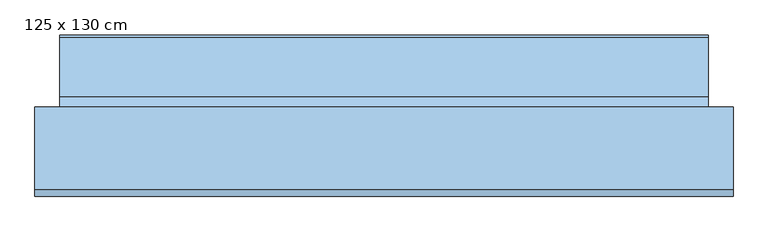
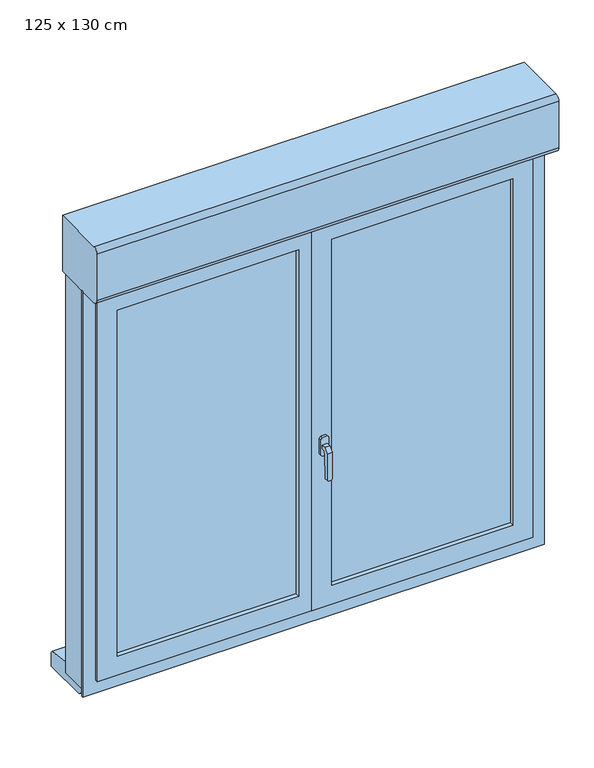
"""IFC4 building model written with IfcOpenShell, lengths in millimetres: window geometry, VR-2 Vantaux : 125 x 130 cm."""

from ifc_helpers import new_model, si_unit, point, frame, frame_2d, origin, place, context, project, spatial, polyline, circle_curve, trimmed, segment, composite_curve, outline, extrude, faceted_brep, source, transform, mapped, element, save


def window_125_x_130_cm_2059b39f(model_context):
    return source(origin(), model_context, "Body", "SolidModel", [
        extrude(outline(composite_curve([segment(polyline([(-38.3661521, 1890.0), (-31.6338479, 1890.0)]), True, "CONTINUOUS"), segment(trimmed(circle_curve(frame_2d((-346.8500247, 1870.0)), 315.8500247), [point((-31.6338479, 1890.0))], [point((-31.6338479, 1850.0))], False, "CARTESIAN"), True, "CONTINUOUS"), segment(polyline([(-31.6338479, 1850.0), (-38.3661521, 1850.0)]), True, "CONTINUOUS"), segment(trimmed(circle_curve(frame_2d((276.8500247, 1870.0)), 315.8500247), [point((-38.3661521, 1850.0))], [point((-38.3661521, 1890.0))], False, "CARTESIAN"), True, "CONTINUOUS")], self_intersect=False)), frame((-647.0, 0.0, 0.0), z_axis=(1.0, 0.0, 0.0), x_axis=(0.0, 1.0, 0.0)), (0.0, 0.0, 1.0), 1294.0),
        extrude(outline(composite_curve([segment(polyline([(-38.3661521, 1930.0), (-31.6338479, 1930.0)]), True, "CONTINUOUS"), segment(trimmed(circle_curve(frame_2d((-346.8500247, 1910.0)), 315.8500247), [point((-31.6338479, 1930.0))], [point((-31.6338479, 1890.0))], False, "CARTESIAN"), True, "CONTINUOUS"), segment(polyline([(-31.6338479, 1890.0), (-38.3661521, 1890.0)]), True, "CONTINUOUS"), segment(trimmed(circle_curve(frame_2d((276.8500247, 1910.0)), 315.8500247), [point((-38.3661521, 1890.0))], [point((-38.3661521, 1930.0))], False, "CARTESIAN"), True, "CONTINUOUS")], self_intersect=False)), frame((-647.0, 0.0, 0.0), z_axis=(1.0, 0.0, 0.0), x_axis=(0.0, 1.0, 0.0)), (0.0, 0.0, 1.0), 1294.0),
        extrude(outline(composite_curve([segment(polyline([(-38.3661521, 1970.0), (-31.6338479, 1970.0)]), True, "CONTINUOUS"), segment(trimmed(circle_curve(frame_2d((-346.8500247, 1950.0)), 315.8500247), [point((-31.6338479, 1970.0))], [point((-31.6338479, 1930.0))], False, "CARTESIAN"), True, "CONTINUOUS"), segment(polyline([(-31.6338479, 1930.0), (-38.3661521, 1930.0)]), True, "CONTINUOUS"), segment(trimmed(circle_curve(frame_2d((276.8500247, 1950.0)), 315.8500247), [point((-38.3661521, 1930.0))], [point((-38.3661521, 1970.0))], False, "CARTESIAN"), True, "CONTINUOUS")], self_intersect=False)), frame((-647.0, 0.0, 0.0), z_axis=(1.0, 0.0, 0.0), x_axis=(0.0, 1.0, 0.0)), (0.0, 0.0, 1.0), 1294.0),
        extrude(outline(composite_curve([segment(polyline([(-38.3661521, 2010.0), (-31.6338479, 2010.0)]), True, "CONTINUOUS"), segment(trimmed(circle_curve(frame_2d((-346.8500247, 1990.0)), 315.8500247), [point((-31.6338479, 2010.0))], [point((-31.6338479, 1970.0))], False, "CARTESIAN"), True, "CONTINUOUS"), segment(polyline([(-31.6338479, 1970.0), (-38.3661521, 1970.0)]), True, "CONTINUOUS"), segment(trimmed(circle_curve(frame_2d((276.8500247, 1990.0)), 315.8500247), [point((-38.3661521, 1970.0))], [point((-38.3661521, 2010.0))], False, "CARTESIAN"), True, "CONTINUOUS")], self_intersect=False)), frame((-647.0, 0.0, 0.0), z_axis=(1.0, 0.0, 0.0), x_axis=(0.0, 1.0, 0.0)), (0.0, 0.0, 1.0), 1294.0),
        extrude(outline(composite_curve([segment(polyline([(-38.3661521, 2050.0), (-31.6338479, 2050.0)]), True, "CONTINUOUS"), segment(trimmed(circle_curve(frame_2d((-346.8500247, 2030.0)), 315.8500247), [point((-31.6338479, 2050.0))], [point((-31.6338479, 2010.0))], False, "CARTESIAN"), True, "CONTINUOUS"), segment(polyline([(-31.6338479, 2010.0), (-38.3661521, 2010.0)]), True, "CONTINUOUS"), segment(trimmed(circle_curve(frame_2d((276.8500247, 2030.0)), 315.8500247), [point((-38.3661521, 2010.0))], [point((-38.3661521, 2050.0))], False, "CARTESIAN"), True, "CONTINUOUS")], self_intersect=False)), frame((-647.0, 0.0, 0.0), z_axis=(1.0, 0.0, 0.0), x_axis=(0.0, 1.0, 0.0)), (0.0, 0.0, 1.0), 1294.0),
        extrude(outline(composite_curve([segment(polyline([(-38.3661521, 2090.0), (-31.6338479, 2090.0)]), True, "CONTINUOUS"), segment(trimmed(circle_curve(frame_2d((-346.8500247, 2070.0)), 315.8500247), [point((-31.6338479, 2090.0))], [point((-31.6338479, 2050.0))], False, "CARTESIAN"), True, "CONTINUOUS"), segment(polyline([(-31.6338479, 2050.0), (-38.3661521, 2050.0)]), True, "CONTINUOUS"), segment(trimmed(circle_curve(frame_2d((276.8500247, 2070.0)), 315.8500247), [point((-38.3661521, 2050.0))], [point((-38.3661521, 2090.0))], False, "CARTESIAN"), True, "CONTINUOUS")], self_intersect=False)), frame((-647.0, 0.0, 0.0), z_axis=(1.0, 0.0, 0.0), x_axis=(0.0, 1.0, 0.0)), (0.0, 0.0, 1.0), 1294.0),
        extrude(outline(polyline([(-38.3661521, 1850.0), (-31.6338479, 1850.0), (-31.0, 1849.3661521), (-31.0, 1820.6338479), (-31.6338479, 1820.0), (-38.3661521, 1820.0), (-39.0, 1820.6338479), (-39.0, 1849.3661521), (-38.3661521, 1850.0)])), frame((-647.0, 0.0, 0.0), z_axis=(1.0, 0.0, 0.0), x_axis=(0.0, 1.0, 0.0)), (0.0, 0.0, 1.0), 1294.0),
        faceted_brep([(17.0, -121.0, 1356.0), (33.0, -121.0, 1356.0), (33.0, -121.0, 1344.0), (17.0, -121.0, 1344.0), (17.0, -133.4852814, 1356.0), (33.0, -133.4852814, 1356.0), (33.0, -147.0, 1342.4852814), (33.0, -147.0, 1258.5355339), (33.0, -137.7580139, 1258.5355339), (33.0, -135.0099909, 1337.2286157), (33.0, -135.0, 1337.5147186), (33.0, -128.5147186, 1344.0), (17.0, -128.5147186, 1344.0), (17.0, -135.0, 1337.5147186), (17.0, -135.0, 1337.2282668), (17.0, -137.7580139, 1258.5355339), (17.0, -147.0, 1258.5355339), (17.0, -147.0, 1342.4852814), (29.4644661, -147.0, 1255.0), (20.5355339, -147.0, 1255.0), (20.5355339, -137.8814775, 1255.0), (29.4644661, -137.8814775, 1255.0)], [[[0, 1, 2, 3]], [[1, 0, 4, 5]], [[2, 1, 5, 6, 7, 8, 9, 10, 11]], [[3, 2, 11, 12]], [[0, 3, 12, 13, 14, 15, 16, 17, 4]], [[5, 4, 17, 6]], [[11, 10, 13, 12]], [[18, 19, 20, 21]], [[6, 17, 16, 19, 18, 7]], [[13, 10, 9, 14]], [[14, 9, 8, 21, 20, 15]], [[8, 7, 18, 21]], [[16, 15, 20, 19]]]),
        extrude(outline(polyline([(1380.0, 18.0), (1375.0, 13.0), (1325.0, 13.0), (1320.0, 18.0), (1320.0, 32.0), (1325.0, 37.0), (1375.0, 37.0), (1380.0, 32.0), (1380.0, 18.0)])), frame((0.0, -121.0, 0.0), z_axis=(0.0, 1.0, 0.0), x_axis=(0.0, 0.0, 1.0)), (0.0, 0.0, 1.0), 8.0),
        extrude(outline(polyline([(0.0, 720.0), (-35.0, 755.0), (-35.0, 800.0), (5.0, 800.0), (5.0, 785.0), (139.6590909, 770.3409091), (145.0, 765.0), (145.0, 720.0), (0.0, 720.0)])), frame((-650.0, 0.0, 0.0), z_axis=(1.0, 0.0, 0.0), x_axis=(0.0, 1.0, 0.0)), (0.0, 0.0, 1.0), 1300.0),
        extrude(outline(polyline([(50.0, -74.5), (600.0, -74.5), (600.0, -98.5), (50.0, -98.5), (50.0, -74.5)])), frame((0.0, 0.0, 890.0), z_axis=(0.0, 0.0, 1.0), x_axis=(1.0, 0.0, 0.0)), (0.0, 0.0, 1.0), 1110.0),
        extrude(outline(polyline([(-600.0, -74.5), (-50.0, -74.5), (-50.0, -98.5), (-600.0, -98.5), (-600.0, -74.5)])), frame((0.0, 0.0, 890.0), z_axis=(0.0, 0.0, 1.0), x_axis=(1.0, 0.0, 0.0)), (0.0, 0.0, 1.0), 1110.0),
        faceted_brep([(660.0, -105.0, 2060.0), (660.0, -113.0, 2060.0), (660.0, -113.0, 830.0), (660.0, -105.0, 830.0), (-10.0, -113.0, 2060.0), (-10.0, -113.0, 830.0), (600.0, -113.0, 2000.0), (600.0, -113.0, 890.0), (50.0, -113.0, 890.0), (50.0, -113.0, 2000.0), (-10.0, -105.0, 830.0), (-10.0, -105.0, 2060.0), (0.0, -105.0, 2050.0), (0.0, -105.0, 840.0), (650.0, -105.0, 840.0), (650.0, -105.0, 2050.0), (650.0, -60.0, 2050.0), (650.0, -60.0, 840.0), (0.0, -60.0, 840.0), (0.0, -60.0, 2050.0), (50.0, -60.0, 2000.0), (50.0, -60.0, 890.0), (600.0, -60.0, 890.0), (600.0, -60.0, 2000.0)], [[[0, 1, 2, 3]], [[4, 5, 2, 1], [6, 7, 8, 9]], [[3, 2, 5, 10]], [[0, 3, 10, 11], [12, 13, 14, 15]], [[16, 15, 14, 17]], [[17, 14, 13, 18]], [[16, 17, 18, 19], [20, 21, 22, 23]], [[6, 23, 22, 7]], [[7, 22, 21, 8]], [[10, 5, 4, 11]], [[18, 13, 12, 19]], [[8, 21, 20, 9]], [[11, 4, 1, 0]], [[19, 12, 15, 16]], [[9, 20, 23, 6]]]),
        faceted_brep([(0.0, -60.0, 2050.0), (0.0, -105.0, 2050.0), (0.0, -105.0, 840.0), (0.0, -60.0, 840.0), (-12.0, -105.0, 2050.0), (-12.0, -105.0, 840.0), (-650.0, -105.0, 840.0), (-650.0, -60.0, 840.0), (-650.0, -60.0, 2050.0), (-50.0, -60.0, 2000.0), (-600.0, -60.0, 2000.0), (-600.0, -60.0, 890.0), (-50.0, -60.0, 890.0), (-50.0, -113.0, 2000.0), (-50.0, -113.0, 890.0), (-600.0, -113.0, 890.0), (-660.0, -113.0, 2060.0), (-660.0, -113.0, 830.0), (-12.0, -113.0, 830.0), (-12.0, -113.0, 2060.0), (-600.0, -113.0, 2000.0), (-660.0, -105.0, 830.0), (-12.0, -105.0, 830.0), (-660.0, -105.0, 2060.0), (-12.0, -105.0, 2060.0), (-650.0, -105.0, 2050.0)], [[[0, 1, 2, 3]], [[4, 5, 2, 1]], [[3, 2, 5, 6, 7]], [[8, 0, 3, 7], [9, 10, 11, 12]], [[13, 9, 12, 14]], [[14, 12, 11, 15]], [[16, 17, 18, 19], [20, 13, 14, 15]], [[17, 21, 22, 18]], [[16, 23, 21, 17]], [[21, 23, 24, 4, 25, 6, 5, 22]], [[5, 4, 24, 19, 18, 22]], [[25, 8, 7, 6]], [[10, 20, 15, 11]], [[23, 16, 19, 24]], [[8, 25, 4, 1, 0]], [[20, 10, 9, 13]]]),
        faceted_brep([(-690.0, 0.0, 800.0), (-650.0, 0.0, 800.0), (-650.0, 15.0, 800.0), (650.0, 15.0, 800.0), (650.0, 0.0, 800.0), (690.0, 0.0, 800.0), (690.0, -100.0, 800.0), (-690.0, -100.0, 800.0), (-690.0, 0.0, 2090.0), (690.0, 0.0, 2090.0), (650.0, 0.0, 829.2857143), (650.0, 0.0, 2050.0), (-650.0, 0.0, 2050.0), (-650.0, 0.0, 829.2857143), (-650.0, 20.0, 825.0), (-650.0, 20.0, 790.0), (-650.0, 15.0, 790.0), (650.0, 15.0, 790.0), (650.0, 20.0, 790.0), (650.0, 20.0, 825.0), (690.0, -100.0, 2090.0), (700.0, -100.0, 790.0), (-700.0, -100.0, 790.0), (-700.0, -100.0, 2090.0), (-690.0, -100.0, 2090.0), (700.0, -100.0, 2090.0), (650.0, -50.0, 840.0), (650.0, -50.0, 2050.0), (650.0, -40.0, 2050.0), (650.0, -40.0, 2090.0), (650.0, -30.0, 2090.0), (650.0, -30.0, 2050.0), (-650.0, -30.0, 2050.0), (-650.0, -30.0, 2090.0), (-650.0, -40.0, 2090.0), (-650.0, -40.0, 2050.0), (-650.0, -50.0, 2050.0), (-650.0, -50.0, 840.0), (635.0, -50.0, 2035.0), (-635.0, -50.0, 2035.0), (-635.0, -50.0, 855.0), (635.0, -50.0, 855.0), (-635.0, -60.0, 2035.0), (-635.0, -60.0, 855.0), (635.0, -60.0, 855.0), (635.0, -60.0, 2035.0), (650.0, -60.0, 2050.0), (-650.0, -60.0, 2050.0), (-650.0, -60.0, 840.0), (650.0, -60.0, 840.0), (-650.0, -105.0, 2050.0), (-650.0, -105.0, 840.0), (650.0, -105.0, 840.0), (650.0, -105.0, 2050.0), (-700.0, -105.0, 790.0), (700.0, -105.0, 790.0), (700.0, -105.0, 2090.0), (-700.0, -105.0, 2090.0)], [[[0, 1, 2, 3, 4, 5, 6, 7]], [[1, 0, 8, 9, 5, 4, 10, 11, 12, 13]], [[14, 15, 16, 2, 1, 13]], [[2, 16, 17, 3]], [[3, 17, 18, 19, 10, 4]], [[5, 9, 20, 6]], [[21, 22, 23, 24, 7, 6, 20, 25]], [[0, 7, 24, 8]], [[11, 10, 26, 27, 28, 29, 30, 31]], [[13, 12, 32, 33, 34, 35, 36, 37]], [[36, 27, 26, 37], [38, 39, 40, 41]], [[19, 14, 13, 37, 26, 10]], [[39, 42, 43, 40]], [[43, 44, 41, 40]], [[45, 38, 41, 44]], [[46, 47, 48, 49], [42, 45, 44, 43]], [[47, 50, 51, 48]], [[49, 48, 51, 52]], [[53, 46, 49, 52]], [[54, 55, 56, 57], [50, 53, 52, 51]], [[55, 54, 22, 21]], [[55, 21, 25, 56]], [[22, 54, 57, 23]], [[15, 14, 19, 18]], [[16, 15, 18, 17]], [[12, 11, 31, 32]], [[27, 36, 35, 28]], [[39, 38, 45, 42]], [[47, 46, 53, 50]], [[9, 8, 24, 23, 57, 56, 25, 20], [30, 29, 34, 33]], [[31, 30, 33, 32]], [[29, 28, 35, 34]]]),
        extrude(outline(polyline([(-635.0, -42.4758166), (-650.0, -42.4758166), (-650.0, -27.4725917), (-635.0, -27.4725917), (-635.0, -30.0), (-646.9970092, -30.0), (-646.9970092, -40.0), (-635.0, -40.0), (-635.0, -42.4758166)])), frame((0.0, 0.0, 840.0), z_axis=(0.0, 0.0, 1.0), x_axis=(1.0, 0.0, 0.0)), (0.0, 0.0, 1.0), 1210.0),
        extrude(outline(polyline([(650.0, -42.4758166), (635.0, -42.4758166), (635.0, -40.0), (647.0, -40.0), (647.0, -30.0), (635.0, -30.0), (635.0, -27.4725917), (650.0, -27.4725917), (650.0, -42.4758166)])), frame((0.0, 0.0, 840.0), z_axis=(0.0, 0.0, 1.0), x_axis=(1.0, 0.0, 0.0)), (0.0, 0.0, 1.0), 1210.0),
        extrude(outline(composite_curve([segment(polyline([(0.0, 2090.0), (-165.0, 2090.0)]), True, "CONTINUOUS"), segment(trimmed(circle_curve(frame_2d((-165.0, 2105.0)), 15.0), [point((-165.0, 2090.0))], [point((-180.0, 2105.0))], False, "CARTESIAN"), True, "CONTINUOUS"), segment(polyline([(-180.0, 2105.0), (-180.0, 2255.0)]), True, "CONTINUOUS"), segment(trimmed(circle_curve(frame_2d((-165.0, 2255.0)), 15.0), [point((-180.0, 2255.0))], [point((-165.0, 2270.0))], False, "CARTESIAN"), True, "CONTINUOUS"), segment(polyline([(-165.0, 2270.0), (0.0, 2270.0), (0.0, 2090.0)]), True, "CONTINUOUS")], self_intersect=False)), frame((-700.0, 0.0, 0.0), z_axis=(1.0, 0.0, 0.0), x_axis=(0.0, 1.0, 0.0)), (0.0, 0.0, 1.0), 1400.0),
        extrude(outline(polyline([(-15.0, -55.0), (15.0, -55.0), (15.0, -60.0), (-15.0, -60.0), (-15.0, -55.0)])), frame((0.0, 0.0, 857.0), z_axis=(0.0, 0.0, 1.0), x_axis=(1.0, 0.0, 0.0)), (0.0, 0.0, 1.0), 1176.0),
    ])


if __name__ == "__main__":
    model = new_model("IFC4")
    model_context = context("Model", 3, world=origin())
    ifc_project = project(units=[si_unit("LENGTHUNIT", "METRE", prefix="MILLI")], contexts=[model_context])
    site = spatial("IfcSite", under=ifc_project)
    building = spatial("IfcBuilding", under=site)
    placement = place(None, origin())
    window_125_x_130_cm_shape = window_125_x_130_cm_2059b39f(model_context)
    element("IfcWindow", 1, ObjectType="VR-2 Vantaux : 125 x 130 cm", at=placement, inside=building, context=model_context, shape_type="MappedRepresentation", body=[
        mapped(window_125_x_130_cm_shape, transform((0.0, 0.0, 0.0), x_axis=(1.0, 0.0, 0.0), y_axis=(0.0, 1.0, 0.0), z_axis=(0.0, 0.0, 1.0))),
    ])
    save(model, "model.ifc")
